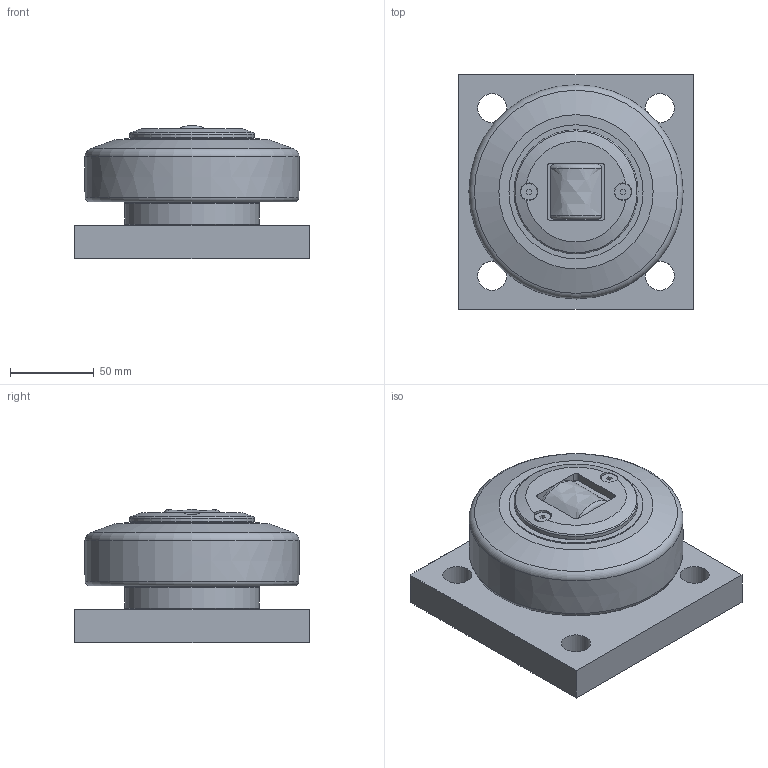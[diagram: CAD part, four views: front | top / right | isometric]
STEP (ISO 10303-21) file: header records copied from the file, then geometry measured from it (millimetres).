
FILE_DESCRIPTION(/* description */ ('-','CAx-IF Rec.Pracs.---Representation and Presentation of Product Manufacturing Information (PMI)---4.0---2014-10-13'),/* implementation_level */ '2;1');
FILE_NAME(/* name */ 'c:\temp\8bcf453f-63a5-44fa-9891-7fb408b0fb23\c58430b5-5f8d-48a6-86f7-88ce3a085227.stp',/* time_stamp */ '2020-04-01T16:20:33+02:00',/* author */ ('-'),/* organization */ ('NTI CADcenter A/S'),/* preprocessor_version */ 'ST-DEVELOPER v18',/* originating_system */ 'Autodesk Inventor 2020',/* authorisation */ '-');
FILE_SCHEMA (('AP242_MANAGED_MODEL_BASED_3D_ENGINEERING_MIM_LF { 1 0 10303 442 1 1 4 }'));
Length unit declared in the file: millimetre
Products named in the file (1): PT 120.0320 BQ1000_Kontur
Bounding box: 140 x 140 x 79.5 mm (x, y, z)
Volume: 919336.1 mm3; surface area: 86889.3 mm2
Topology: 1 solids, 1 shells, 82 faces, 219 edges, 148 vertices
Faces by surface type: plane 40, cylinder 24, cone 11, torus 5, bspline 2
Full cylindrical faces by diameter (mm): 9.75 x2, 10.5 x2, 17.294 x4, 74 x1, 80 x3
Entity records: 2760 total; most frequent: CARTESIAN_POINT 594, DIRECTION 457, ORIENTED_EDGE 438, EDGE_CURVE 219, AXIS2_PLACEMENT_3D 173, VERTEX_POINT 148, LINE 111, VECTOR 111
